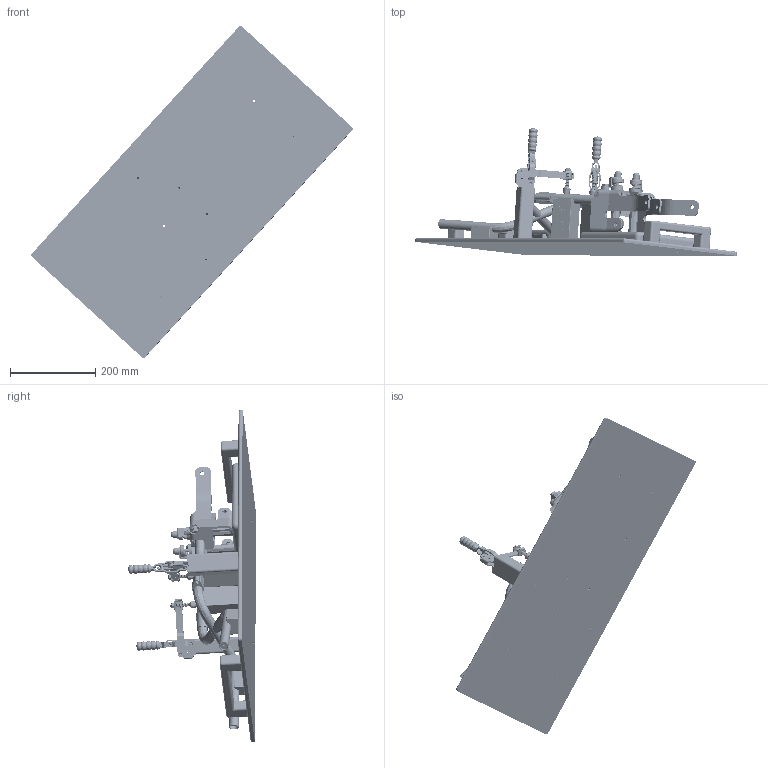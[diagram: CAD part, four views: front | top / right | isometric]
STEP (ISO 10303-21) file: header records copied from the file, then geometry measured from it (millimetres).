
FILE_DESCRIPTION(('CATIA V5 STEP Exchange','CAx-IF Rec.Pracs.--- Composite Materials ---3.4---2017-06-13'),'2;1');
FILE_NAME('D:\Users\46830\Desktop\volvo\装配工装\10.21\volvo前下镜装配工装\安装座装配工装.stp','2025-10-24T06:11:09+00:00',('none'),('none'),'CATIA Version 5-6 Release 2021 SP7','CATIA V5 STEP AP203 v2','none');
FILE_SCHEMA(('CONFIG_CONTROL_DESIGN'));
Products named in the file (1): anzhuangzuozhuangpeigongzhuang
Assembly tree (9 placements, depth 2):
  anzhuangzuozhuangpeigongzhuang
    #57
    #33005
    #63128
    #97138
    #117514
    #182395  x2
    #254951  x2
Bounding box: 754.48 x 300.25 x 778.66 mm (x, y, z)
Volume: 5750611.1 mm3; surface area: 1574328.4 mm2
Topology: 126 solids, 126 shells, 7237 faces, 24244 edges, 17263 vertices
Faces by surface type: plane 2691, cylinder 2073, bspline 1401, cone 510, torus 422, extrusion 64, sphere 48, revolution 28
Entity records: 253850 total; most frequent: CARTESIAN_POINT 107415, ORIENTED_EDGE 37384, DIRECTION 20233, EDGE_CURVE 18692, VERTEX_POINT 12993, VECTOR 8380, LINE 8316, AXIS2_PLACEMENT_3D 7763
